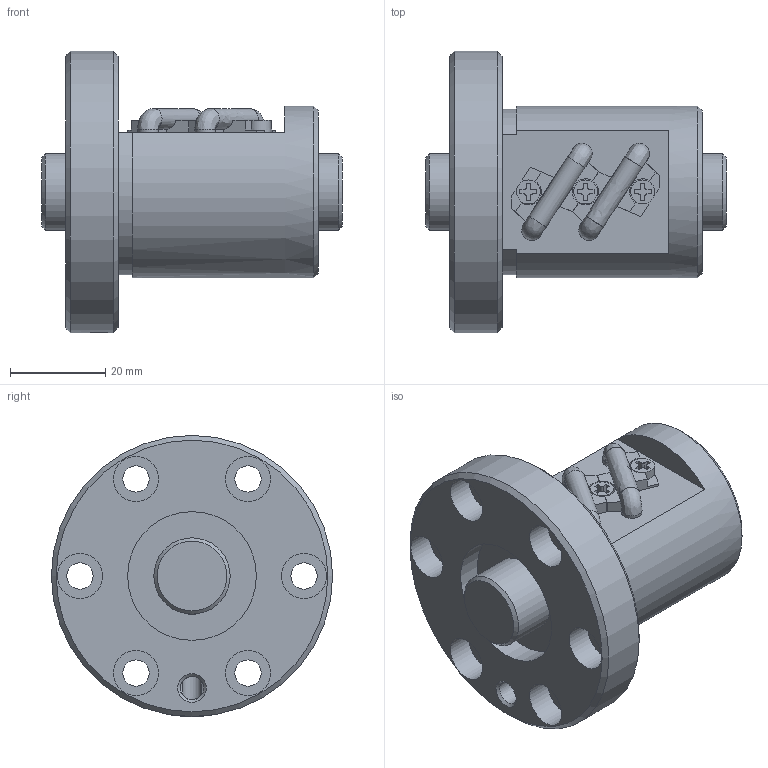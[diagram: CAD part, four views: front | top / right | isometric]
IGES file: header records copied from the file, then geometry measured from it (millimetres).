
Start section: Data from Parasolid IGES Translator 26.0.171, Copyright(c) 2006 Siemens PLM Software. All Rights Reserved.
Global section: file name: BIF1604V-5RRG0+63LC0_000.igs; native system: By Siemens PLM Incorporated; preprocessor: XPlus GENERIC/IGES 26.0.171; author: Noname; organization: Noname; date: 20240715.081627; units: millimetre
Bounding box: 63 x 59 x 59 mm (x, y, z)
Surface area: 20596.3 mm2 (no closed solid volume)
Topology: 0 solids, 0 shells, 183 faces, 980 edges, 948 vertices
Faces by surface type: extrusion 112, revolution 71
